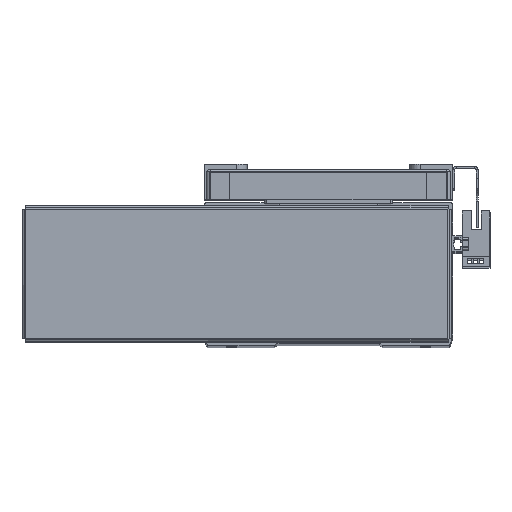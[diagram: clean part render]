
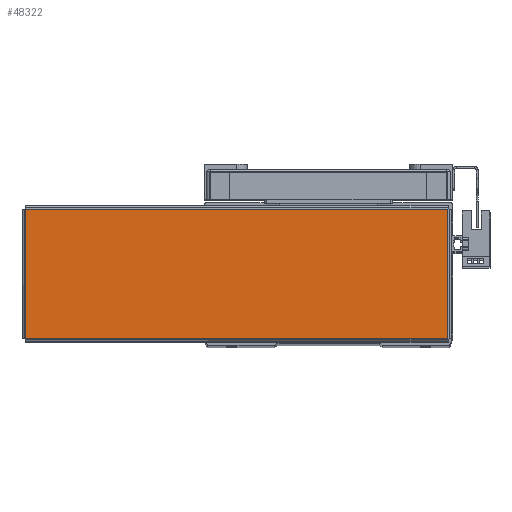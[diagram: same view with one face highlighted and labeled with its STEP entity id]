
A CAD part, top view. The second image highlights one B-rep face of the part: STEP entity #48322.
In plain terms, the highlighted planar face has unit normal (0, 0, 1) as drawn and (0, -1, 0) by its records, which use the part's own axes.
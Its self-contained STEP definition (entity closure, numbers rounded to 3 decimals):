
#3542 = DIRECTION ( 'NONE',  ( -1., 0., 0. ) ) ;
#3544 = CARTESIAN_POINT ( 'NONE',  ( 103.793, -1., 31.763 ) ) ;
#3573 = DIRECTION ( 'NONE',  ( 0., 0., 1. ) ) ;
#3582 = CARTESIAN_POINT ( 'NONE',  ( 103.763, -1., -31.793 ) ) ;
#5299 = CARTESIAN_POINT ( 'NONE',  ( -103.763, -1., 31.793 ) ) ;
#5343 = DIRECTION ( 'NONE',  ( 0., 0., -1. ) ) ;
#7179 = EDGE_LOOP ( 'NONE', ( #45403, #46931, #46923, #46940 ) ) ;
#10199 = AXIS2_PLACEMENT_3D ( 'NONE', #13350, #13317, #13319 ) ;
#12980 = FACE_OUTER_BOUND ( 'NONE', #7179, .T. ) ;
#13317 = DIRECTION ( 'NONE',  ( 0., 1., 0. ) ) ;
#13319 = DIRECTION ( 'NONE',  ( 0., 0., 1. ) ) ;
#13350 = CARTESIAN_POINT ( 'NONE',  ( 0., -1., 0. ) ) ;
#13362 = PLANE ( 'NONE',  #10199 ) ;
#14777 = VECTOR ( 'NONE', #3542, 1000. ) ;
#14794 = VECTOR ( 'NONE', #3573, 1000. ) ;
#14799 = LINE ( 'NONE', #3582, #14794 ) ;
#14833 = LINE ( 'NONE', #3544, #14777 ) ;
#14851 = LINE ( 'NONE', #5299, #14885 ) ;
#14864 = LINE ( 'NONE', #52675, #14883 ) ;
#14883 = VECTOR ( 'NONE', #52679, 1000. ) ;
#14885 = VECTOR ( 'NONE', #5343, 1000. ) ;
#19571 = CARTESIAN_POINT ( 'NONE',  ( -103.763, -1., 31.763 ) ) ;
#19581 = CARTESIAN_POINT ( 'NONE',  ( 103.763, -1., 31.763 ) ) ;
#19608 = CARTESIAN_POINT ( 'NONE',  ( 103.763, -1., -31.763 ) ) ;
#19617 = CARTESIAN_POINT ( 'NONE',  ( -103.763, -1., -31.763 ) ) ;
#26763 = EDGE_CURVE ( 'NONE', #44298, #44230, #14833, .T. ) ;
#26768 = EDGE_CURVE ( 'NONE', #44302, #44298, #14799, .T. ) ;
#26819 = EDGE_CURVE ( 'NONE', #44230, #44323, #14851, .T. ) ;
#26832 = EDGE_CURVE ( 'NONE', #44323, #44302, #14864, .T. ) ;
#44230 = VERTEX_POINT ( 'NONE', #19571 ) ;
#44298 = VERTEX_POINT ( 'NONE', #19581 ) ;
#44302 = VERTEX_POINT ( 'NONE', #19608 ) ;
#44323 = VERTEX_POINT ( 'NONE', #19617 ) ;
#45403 = ORIENTED_EDGE ( 'NONE', *, *, #26763, .T. ) ;
#46923 = ORIENTED_EDGE ( 'NONE', *, *, #26832, .T. ) ;
#46931 = ORIENTED_EDGE ( 'NONE', *, *, #26819, .T. ) ;
#46940 = ORIENTED_EDGE ( 'NONE', *, *, #26768, .T. ) ;
#48322 = ADVANCED_FACE ( 'NONE', ( #12980 ), #13362, .F. ) ;
#52675 = CARTESIAN_POINT ( 'NONE',  ( -103.793, -1., -31.763 ) ) ;
#52679 = DIRECTION ( 'NONE',  ( 1., 0., 0. ) ) ;
